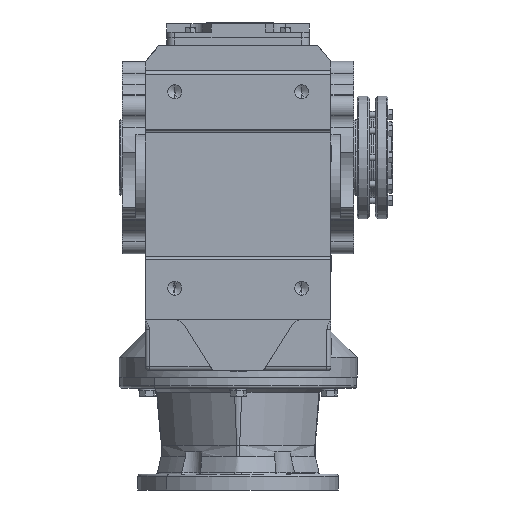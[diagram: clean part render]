
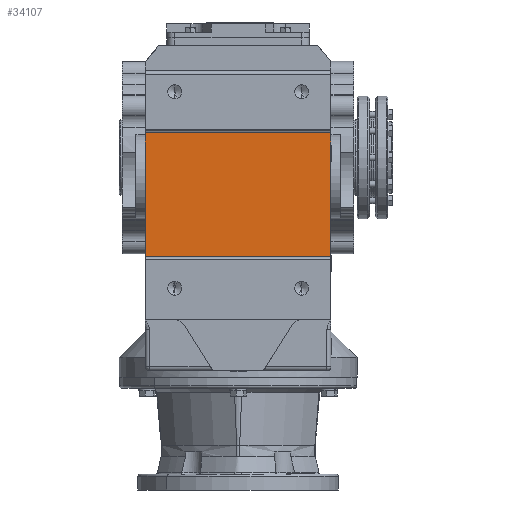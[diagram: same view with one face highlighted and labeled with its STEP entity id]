
A CAD part, front view. The second image highlights one B-rep face of the part: STEP entity #34107.
In plain terms, the highlighted planar face has unit normal (0, -1, 0).
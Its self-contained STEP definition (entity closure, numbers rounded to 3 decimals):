
#2514 = EDGE_LOOP ( 'NONE', ( #27246, #27247, #27248, #27249 ) ) ;
#3718 = VERTEX_POINT ( 'NONE', #17579 ) ;
#3735 = VERTEX_POINT ( 'NONE', #17590 ) ;
#3740 = VERTEX_POINT ( 'NONE', #17594 ) ;
#3743 = VERTEX_POINT ( 'NONE', #17595 ) ;
#17579 = CARTESIAN_POINT ( 'NONE',  ( -117., -260., 31. ) ) ;
#17590 = CARTESIAN_POINT ( 'NONE',  ( -117., -260., -125. ) ) ;
#17594 = CARTESIAN_POINT ( 'NONE',  ( 117., -260., 31. ) ) ;
#17595 = CARTESIAN_POINT ( 'NONE',  ( 117., -260., -125. ) ) ;
#19269 = LINE ( 'NONE', #31325, #19287 ) ;
#19283 = LINE ( 'NONE', #31324, #19300 ) ;
#19287 = VECTOR ( 'NONE', #31323, 1000. ) ;
#19290 = LINE ( 'NONE', #31331, #19296 ) ;
#19296 = VECTOR ( 'NONE', #31329, 1000. ) ;
#19298 = LINE ( 'NONE', #31336, #19306 ) ;
#19300 = VECTOR ( 'NONE', #31330, 1000. ) ;
#19306 = VECTOR ( 'NONE', #31335, 1000. ) ;
#27246 = ORIENTED_EDGE ( 'NONE', *, *, #37306, .F. ) ;
#27247 = ORIENTED_EDGE ( 'NONE', *, *, #37310, .F. ) ;
#27248 = ORIENTED_EDGE ( 'NONE', *, *, #37313, .T. ) ;
#27249 = ORIENTED_EDGE ( 'NONE', *, *, #37315, .T. ) ;
#31323 = DIRECTION ( 'NONE',  ( 1., 0., 0. ) ) ;
#31324 = CARTESIAN_POINT ( 'NONE',  ( -145., -260., -125. ) ) ;
#31325 = CARTESIAN_POINT ( 'NONE',  ( -145., -260., 31. ) ) ;
#31329 = DIRECTION ( 'NONE',  ( 0., 0., 1. ) ) ;
#31330 = DIRECTION ( 'NONE',  ( 1., 0., 0. ) ) ;
#31331 = CARTESIAN_POINT ( 'NONE',  ( -117., -260., 31. ) ) ;
#31335 = DIRECTION ( 'NONE',  ( 0., 0., 1. ) ) ;
#31336 = CARTESIAN_POINT ( 'NONE',  ( 117., -260., 31. ) ) ;
#34107 = ADVANCED_FACE ( 'NONE', ( #62591 ), #64983, .T. ) ;
#37306 = EDGE_CURVE ( 'NONE', #3718, #3740, #19269, .T. ) ;
#37310 = EDGE_CURVE ( 'NONE', #3735, #3718, #19290, .T. ) ;
#37313 = EDGE_CURVE ( 'NONE', #3735, #3743, #19283, .T. ) ;
#37315 = EDGE_CURVE ( 'NONE', #3743, #3740, #19298, .T. ) ;
#62591 = FACE_OUTER_BOUND ( 'NONE', #2514, .T. ) ;
#64978 = CARTESIAN_POINT ( 'NONE',  ( -145., -260., 31. ) ) ;
#64983 = PLANE ( 'NONE',  #65754 ) ;
#64986 = DIRECTION ( 'NONE',  ( 0., -1., 0. ) ) ;
#64987 = DIRECTION ( 'NONE',  ( 0., 0., -1. ) ) ;
#65754 = AXIS2_PLACEMENT_3D ( 'NONE', #64978, #64986, #64987 ) ;
